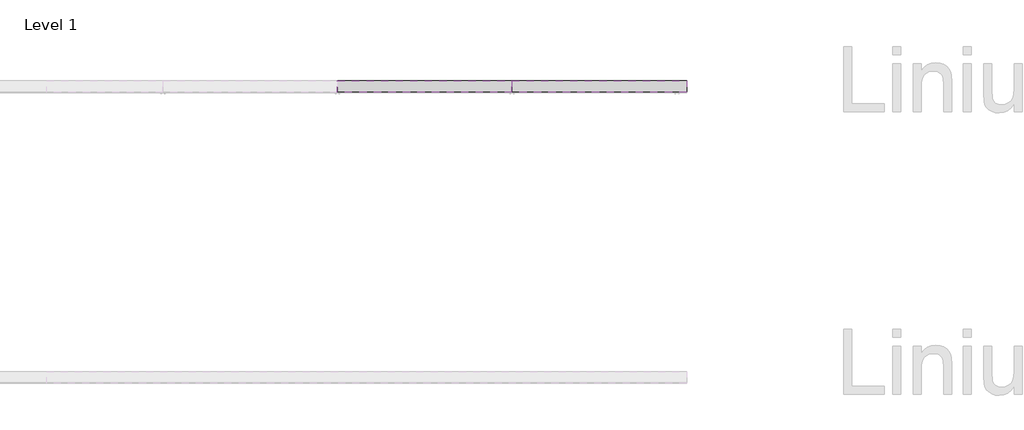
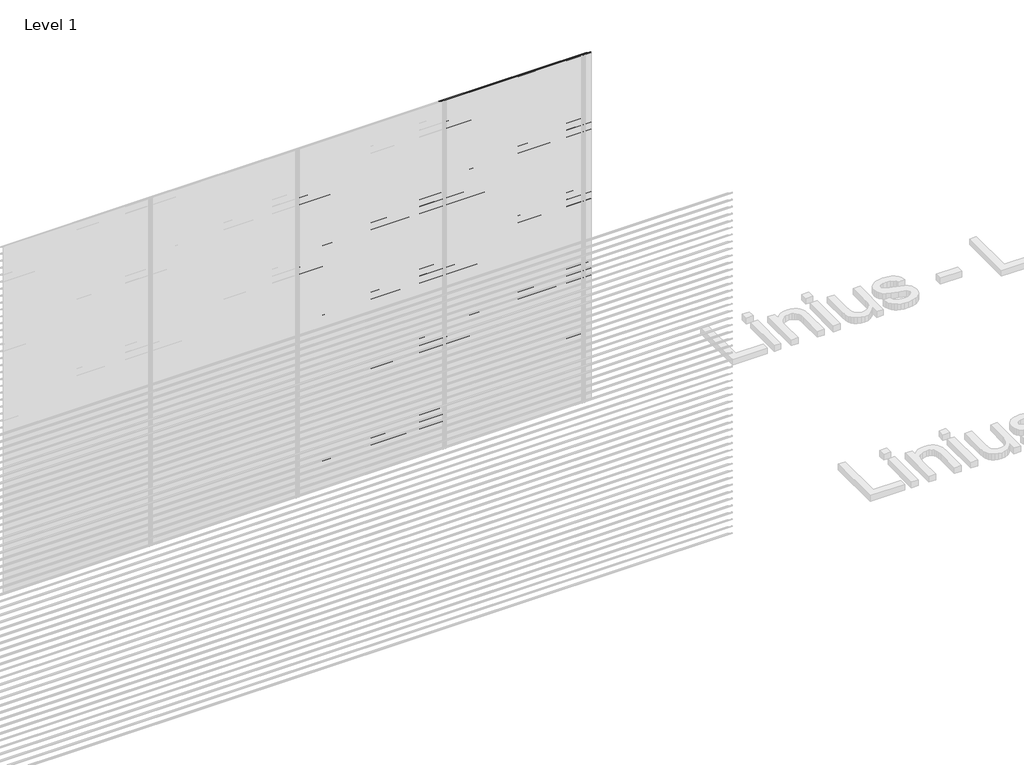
# One storey, part 134 of 153: 84 proxies.
"""IFC4 building model written with IfcOpenShell, lengths in millimetres."""

from ifc_helpers import new_model, si_unit, frame, origin, place, context, project, spatial, polyline, outline, extrude, element, save

model = new_model("IFC4")

# Units and contexts
model_context = context("Model", 3, world=origin())
ifc_project = project(units=[si_unit("LENGTHUNIT", "METRE", prefix="MILLI")], contexts=[model_context])

# Site, building, storey
site = spatial("IfcSite", under=ifc_project)
building = spatial("IfcBuilding", under=site)
storey = spatial("IfcBuildingStorey", under=building, Name="Level 1", Elevation=0.0)

# Proxies
placement = place(None, origin())
element("IfcBuildingElementProxy", 1, Name="Wall Sweeps", at=placement, inside=storey, context=model_context, shape_type="SweptSolid", body=[
    extrude(outline(polyline([(74061.0540136, 2526.0), (74061.0540136, 2520.0), (74059.8040136, 2520.7216933), (74059.8040136, 2525.2538091), (73983.0540136, 2573.9915103), (73983.0540136, 2580.0), (73984.3040136, 2580.0), (73984.3040136, 2574.7377012), (74061.0540136, 2526.0)])), frame((4066.6208096, 0.0, 0.0), z_axis=(1.0, 0.0, 0.0), x_axis=(0.0, 1.0, 0.0)), (0.0, 0.0, 1.0), 1199.9999999),
])
element("IfcBuildingElementProxy", 2, Name="Wall Sweeps", at=placement, inside=storey, context=model_context, shape_type="SweptSolid", body=[
    extrude(outline(polyline([(74061.0540136, 2466.0), (74061.0540136, 2460.0), (74059.8040136, 2460.7216933), (74059.8040136, 2465.2538091), (73983.0540136, 2513.9915103), (73983.0540136, 2520.0), (73984.3040136, 2520.0), (73984.3040136, 2514.7377012), (74061.0540136, 2466.0)])), frame((4066.6208096, 0.0, 0.0), z_axis=(1.0, 0.0, 0.0), x_axis=(0.0, 1.0, 0.0)), (0.0, 0.0, 1.0), 1199.9999999),
])
element("IfcBuildingElementProxy", 3, Name="Wall Sweeps", at=placement, inside=storey, context=model_context, shape_type="SweptSolid", body=[
    extrude(outline(polyline([(74061.0540136, 2406.0), (74061.0540136, 2400.0), (74059.8040136, 2400.7216933), (74059.8040136, 2405.2538091), (73983.0540136, 2453.9915103), (73983.0540136, 2460.0), (73984.3040136, 2460.0), (73984.3040136, 2454.7377012), (74061.0540136, 2406.0)])), frame((4066.6208096, 0.0, 0.0), z_axis=(1.0, 0.0, 0.0), x_axis=(0.0, 1.0, 0.0)), (0.0, 0.0, 1.0), 1199.9999999),
])
element("IfcBuildingElementProxy", 4, Name="Wall Sweeps", at=placement, inside=storey, context=model_context, shape_type="SweptSolid", body=[
    extrude(outline(polyline([(74061.0540136, 2346.0), (74061.0540136, 2340.0), (74059.8040136, 2340.7216933), (74059.8040136, 2345.2538091), (73983.0540136, 2393.9915103), (73983.0540136, 2400.0), (73984.3040136, 2400.0), (73984.3040136, 2394.7377012), (74061.0540136, 2346.0)])), frame((4066.6208096, 0.0, 0.0), z_axis=(1.0, 0.0, 0.0), x_axis=(0.0, 1.0, 0.0)), (0.0, 0.0, 1.0), 1199.9999999),
])
element("IfcBuildingElementProxy", 5, Name="Wall Sweeps", at=placement, inside=storey, context=model_context, shape_type="SweptSolid", body=[
    extrude(outline(polyline([(74061.0540136, 2286.0), (74061.0540136, 2280.0), (74059.8040136, 2280.7216933), (74059.8040136, 2285.2538091), (73983.0540136, 2333.9915103), (73983.0540136, 2340.0), (73984.3040136, 2340.0), (73984.3040136, 2334.7377012), (74061.0540136, 2286.0)])), frame((4066.6208096, 0.0, 0.0), z_axis=(1.0, 0.0, 0.0), x_axis=(0.0, 1.0, 0.0)), (0.0, 0.0, 1.0), 1199.9999999),
])
element("IfcBuildingElementProxy", 6, Name="Wall Sweeps", at=placement, inside=storey, context=model_context, shape_type="SweptSolid", body=[
    extrude(outline(polyline([(74061.0540136, 2226.0), (74061.0540136, 2220.0), (74059.8040136, 2220.7216933), (74059.8040136, 2225.2538091), (73983.0540136, 2273.9915103), (73983.0540136, 2280.0), (73984.3040136, 2280.0), (73984.3040136, 2274.7377012), (74061.0540136, 2226.0)])), frame((4066.6208096, 0.0, 0.0), z_axis=(1.0, 0.0, 0.0), x_axis=(0.0, 1.0, 0.0)), (0.0, 0.0, 1.0), 1199.9999999),
])
element("IfcBuildingElementProxy", 7, Name="Wall Sweeps", at=placement, inside=storey, context=model_context, shape_type="SweptSolid", body=[
    extrude(outline(polyline([(74061.0540136, 2166.0), (74061.0540136, 2160.0), (74059.8040136, 2160.7216933), (74059.8040136, 2165.2538091), (73983.0540136, 2213.9915103), (73983.0540136, 2220.0), (73984.3040136, 2220.0), (73984.3040136, 2214.7377012), (74061.0540136, 2166.0)])), frame((4066.6208096, 0.0, 0.0), z_axis=(1.0, 0.0, 0.0), x_axis=(0.0, 1.0, 0.0)), (0.0, 0.0, 1.0), 1199.9999999),
])
element("IfcBuildingElementProxy", 8, Name="Wall Sweeps", at=placement, inside=storey, context=model_context, shape_type="SweptSolid", body=[
    extrude(outline(polyline([(74061.0540136, 2106.0), (74061.0540136, 2100.0), (74059.8040136, 2100.7216933), (74059.8040136, 2105.2538091), (73983.0540136, 2153.9915103), (73983.0540136, 2160.0), (73984.3040136, 2160.0), (73984.3040136, 2154.7377012), (74061.0540136, 2106.0)])), frame((4066.6208096, 0.0, 0.0), z_axis=(1.0, 0.0, 0.0), x_axis=(0.0, 1.0, 0.0)), (0.0, 0.0, 1.0), 1199.9999999),
])
element("IfcBuildingElementProxy", 9, Name="Wall Sweeps", at=placement, inside=storey, context=model_context, shape_type="SweptSolid", body=[
    extrude(outline(polyline([(74061.0540136, 2046.0), (74061.0540136, 2040.0), (74059.8040136, 2040.7216933), (74059.8040136, 2045.2538091), (73983.0540136, 2093.9915103), (73983.0540136, 2100.0), (73984.3040136, 2100.0), (73984.3040136, 2094.7377012), (74061.0540136, 2046.0)])), frame((4066.6208096, 0.0, 0.0), z_axis=(1.0, 0.0, 0.0), x_axis=(0.0, 1.0, 0.0)), (0.0, 0.0, 1.0), 1199.9999999),
])
element("IfcBuildingElementProxy", 10, Name="Wall Sweeps", at=placement, inside=storey, context=model_context, shape_type="SweptSolid", body=[
    extrude(outline(polyline([(74061.0540136, 1986.0), (74061.0540136, 1980.0), (74059.8040136, 1980.7216933), (74059.8040136, 1985.2538091), (73983.0540136, 2033.9915103), (73983.0540136, 2040.0), (73984.3040136, 2040.0), (73984.3040136, 2034.7377012), (74061.0540136, 1986.0)])), frame((4066.6208096, 0.0, 0.0), z_axis=(1.0, 0.0, 0.0), x_axis=(0.0, 1.0, 0.0)), (0.0, 0.0, 1.0), 1199.9999999),
])
element("IfcBuildingElementProxy", 11, Name="Wall Sweeps", at=placement, inside=storey, context=model_context, shape_type="SweptSolid", body=[
    extrude(outline(polyline([(74061.0540136, 1926.0), (74061.0540136, 1920.0), (74059.8040136, 1920.7216933), (74059.8040136, 1925.2538091), (73983.0540136, 1973.9915103), (73983.0540136, 1980.0), (73984.3040136, 1980.0), (73984.3040136, 1974.7377012), (74061.0540136, 1926.0)])), frame((4066.6208096, 0.0, 0.0), z_axis=(1.0, 0.0, 0.0), x_axis=(0.0, 1.0, 0.0)), (0.0, 0.0, 1.0), 1199.9999999),
])
element("IfcBuildingElementProxy", 12, Name="Wall Sweeps", at=placement, inside=storey, context=model_context, shape_type="SweptSolid", body=[
    extrude(outline(polyline([(74061.0540136, 1866.0), (74061.0540136, 1860.0), (74059.8040136, 1860.7216933), (74059.8040136, 1865.2538091), (73983.0540136, 1913.9915103), (73983.0540136, 1920.0), (73984.3040136, 1920.0), (73984.3040136, 1914.7377012), (74061.0540136, 1866.0)])), frame((4066.6208096, 0.0, 0.0), z_axis=(1.0, 0.0, 0.0), x_axis=(0.0, 1.0, 0.0)), (0.0, 0.0, 1.0), 1199.9999999),
])
element("IfcBuildingElementProxy", 13, Name="Wall Sweeps", at=placement, inside=storey, context=model_context, shape_type="SweptSolid", body=[
    extrude(outline(polyline([(74061.0540136, 1806.0), (74061.0540136, 1800.0), (74059.8040136, 1800.7216933), (74059.8040136, 1805.2538091), (73983.0540136, 1853.9915103), (73983.0540136, 1860.0), (73984.3040136, 1860.0), (73984.3040136, 1854.7377012), (74061.0540136, 1806.0)])), frame((4066.6208096, 0.0, 0.0), z_axis=(1.0, 0.0, 0.0), x_axis=(0.0, 1.0, 0.0)), (0.0, 0.0, 1.0), 1199.9999999),
])
element("IfcBuildingElementProxy", 14, Name="Wall Sweeps", at=placement, inside=storey, context=model_context, shape_type="SweptSolid", body=[
    extrude(outline(polyline([(74061.0540136, 1746.0), (74061.0540136, 1740.0), (74059.8040136, 1740.7216933), (74059.8040136, 1745.2538091), (73983.0540136, 1793.9915103), (73983.0540136, 1800.0), (73984.3040136, 1800.0), (73984.3040136, 1794.7377012), (74061.0540136, 1746.0)])), frame((4066.6208096, 0.0, 0.0), z_axis=(1.0, 0.0, 0.0), x_axis=(0.0, 1.0, 0.0)), (0.0, 0.0, 1.0), 1199.9999999),
])
element("IfcBuildingElementProxy", 15, Name="Wall Sweeps", at=placement, inside=storey, context=model_context, shape_type="SweptSolid", body=[
    extrude(outline(polyline([(74061.0540136, 1686.0), (74061.0540136, 1680.0), (74059.8040136, 1680.7216933), (74059.8040136, 1685.2538091), (73983.0540136, 1733.9915103), (73983.0540136, 1740.0), (73984.3040136, 1740.0), (73984.3040136, 1734.7377012), (74061.0540136, 1686.0)])), frame((4066.6208096, 0.0, 0.0), z_axis=(1.0, 0.0, 0.0), x_axis=(0.0, 1.0, 0.0)), (0.0, 0.0, 1.0), 1199.9999999),
])
element("IfcBuildingElementProxy", 16, Name="Wall Sweeps", at=placement, inside=storey, context=model_context, shape_type="SweptSolid", body=[
    extrude(outline(polyline([(74061.0540136, 1626.0), (74061.0540136, 1620.0), (74059.8040136, 1620.7216933), (74059.8040136, 1625.2538091), (73983.0540136, 1673.9915103), (73983.0540136, 1680.0), (73984.3040136, 1680.0), (73984.3040136, 1674.7377012), (74061.0540136, 1626.0)])), frame((4066.6208096, 0.0, 0.0), z_axis=(1.0, 0.0, 0.0), x_axis=(0.0, 1.0, 0.0)), (0.0, 0.0, 1.0), 1199.9999999),
])
element("IfcBuildingElementProxy", 17, Name="Wall Sweeps", at=placement, inside=storey, context=model_context, shape_type="SweptSolid", body=[
    extrude(outline(polyline([(74061.0540136, 1566.0), (74061.0540136, 1560.0), (74059.8040136, 1560.7216933), (74059.8040136, 1565.2538091), (73983.0540136, 1613.9915103), (73983.0540136, 1620.0), (73984.3040136, 1620.0), (73984.3040136, 1614.7377012), (74061.0540136, 1566.0)])), frame((4066.6208096, 0.0, 0.0), z_axis=(1.0, 0.0, 0.0), x_axis=(0.0, 1.0, 0.0)), (0.0, 0.0, 1.0), 1199.9999999),
])
element("IfcBuildingElementProxy", 18, Name="Wall Sweeps", at=placement, inside=storey, context=model_context, shape_type="SweptSolid", body=[
    extrude(outline(polyline([(74061.0540136, 1506.0), (74061.0540136, 1500.0), (74059.8040136, 1500.7216933), (74059.8040136, 1505.2538091), (73983.0540136, 1553.9915103), (73983.0540136, 1560.0), (73984.3040136, 1560.0), (73984.3040136, 1554.7377012), (74061.0540136, 1506.0)])), frame((4066.6208096, 0.0, 0.0), z_axis=(1.0, 0.0, 0.0), x_axis=(0.0, 1.0, 0.0)), (0.0, 0.0, 1.0), 1199.9999999),
])
element("IfcBuildingElementProxy", 19, Name="Wall Sweeps", at=placement, inside=storey, context=model_context, shape_type="SweptSolid", body=[
    extrude(outline(polyline([(74061.0540136, 1446.0), (74061.0540136, 1440.0), (74059.8040136, 1440.7216933), (74059.8040136, 1445.2538091), (73983.0540136, 1493.9915103), (73983.0540136, 1500.0), (73984.3040136, 1500.0), (73984.3040136, 1494.7377012), (74061.0540136, 1446.0)])), frame((4066.6208096, 0.0, 0.0), z_axis=(1.0, 0.0, 0.0), x_axis=(0.0, 1.0, 0.0)), (0.0, 0.0, 1.0), 1199.9999999),
])
element("IfcBuildingElementProxy", 20, Name="Wall Sweeps", at=placement, inside=storey, context=model_context, shape_type="SweptSolid", body=[
    extrude(outline(polyline([(74061.0540136, 1386.0), (74061.0540136, 1380.0), (74059.8040136, 1380.7216933), (74059.8040136, 1385.2538091), (73983.0540136, 1433.9915103), (73983.0540136, 1440.0), (73984.3040136, 1440.0), (73984.3040136, 1434.7377012), (74061.0540136, 1386.0)])), frame((4066.6208096, 0.0, 0.0), z_axis=(1.0, 0.0, 0.0), x_axis=(0.0, 1.0, 0.0)), (0.0, 0.0, 1.0), 1199.9999999),
])
element("IfcBuildingElementProxy", 21, Name="Wall Sweeps", at=placement, inside=storey, context=model_context, shape_type="SweptSolid", body=[
    extrude(outline(polyline([(74061.0540136, 1326.0), (74061.0540136, 1320.0), (74059.8040136, 1320.7216933), (74059.8040136, 1325.2538091), (73983.0540136, 1373.9915103), (73983.0540136, 1380.0), (73984.3040136, 1380.0), (73984.3040136, 1374.7377012), (74061.0540136, 1326.0)])), frame((4066.6208096, 0.0, 0.0), z_axis=(1.0, 0.0, 0.0), x_axis=(0.0, 1.0, 0.0)), (0.0, 0.0, 1.0), 1199.9999999),
])
element("IfcBuildingElementProxy", 22, Name="Wall Sweeps", at=placement, inside=storey, context=model_context, shape_type="SweptSolid", body=[
    extrude(outline(polyline([(74061.0540136, 1266.0), (74061.0540136, 1260.0), (74059.8040136, 1260.7216933), (74059.8040136, 1265.2538091), (73983.0540136, 1313.9915103), (73983.0540136, 1320.0), (73984.3040136, 1320.0), (73984.3040136, 1314.7377012), (74061.0540136, 1266.0)])), frame((4066.6208096, 0.0, 0.0), z_axis=(1.0, 0.0, 0.0), x_axis=(0.0, 1.0, 0.0)), (0.0, 0.0, 1.0), 1199.9999999),
])
element("IfcBuildingElementProxy", 23, Name="Wall Sweeps", at=placement, inside=storey, context=model_context, shape_type="SweptSolid", body=[
    extrude(outline(polyline([(74061.0540136, 1206.0), (74061.0540136, 1200.0), (74059.8040136, 1200.7216933), (74059.8040136, 1205.2538091), (73983.0540136, 1253.9915103), (73983.0540136, 1260.0), (73984.3040136, 1260.0), (73984.3040136, 1254.7377012), (74061.0540136, 1206.0)])), frame((4066.6208096, 0.0, 0.0), z_axis=(1.0, 0.0, 0.0), x_axis=(0.0, 1.0, 0.0)), (0.0, 0.0, 1.0), 1199.9999999),
])
element("IfcBuildingElementProxy", 24, Name="Wall Sweeps", at=placement, inside=storey, context=model_context, shape_type="SweptSolid", body=[
    extrude(outline(polyline([(74061.0540136, 1146.0), (74061.0540136, 1140.0), (74059.8040136, 1140.7216933), (74059.8040136, 1145.2538091), (73983.0540136, 1193.9915103), (73983.0540136, 1200.0), (73984.3040136, 1200.0), (73984.3040136, 1194.7377012), (74061.0540136, 1146.0)])), frame((4066.6208096, 0.0, 0.0), z_axis=(1.0, 0.0, 0.0), x_axis=(0.0, 1.0, 0.0)), (0.0, 0.0, 1.0), 1199.9999999),
])
element("IfcBuildingElementProxy", 25, Name="Wall Sweeps", at=placement, inside=storey, context=model_context, shape_type="SweptSolid", body=[
    extrude(outline(polyline([(74061.0540136, 1086.0), (74061.0540136, 1080.0), (74059.8040136, 1080.7216933), (74059.8040136, 1085.2538091), (73983.0540136, 1133.9915103), (73983.0540136, 1140.0), (73984.3040136, 1140.0), (73984.3040136, 1134.7377012), (74061.0540136, 1086.0)])), frame((4066.6208096, 0.0, 0.0), z_axis=(1.0, 0.0, 0.0), x_axis=(0.0, 1.0, 0.0)), (0.0, 0.0, 1.0), 1199.9999999),
])
element("IfcBuildingElementProxy", 26, Name="Wall Sweeps", at=placement, inside=storey, context=model_context, shape_type="SweptSolid", body=[
    extrude(outline(polyline([(74061.0540136, 1026.0), (74061.0540136, 1020.0), (74059.8040136, 1020.7216933), (74059.8040136, 1025.2538091), (73983.0540136, 1073.9915103), (73983.0540136, 1080.0), (73984.3040136, 1080.0), (73984.3040136, 1074.7377012), (74061.0540136, 1026.0)])), frame((4066.6208096, 0.0, 0.0), z_axis=(1.0, 0.0, 0.0), x_axis=(0.0, 1.0, 0.0)), (0.0, 0.0, 1.0), 1199.9999999),
])
element("IfcBuildingElementProxy", 27, Name="Wall Sweeps", at=placement, inside=storey, context=model_context, shape_type="SweptSolid", body=[
    extrude(outline(polyline([(74061.0540136, 966.0), (74061.0540136, 960.0), (74059.8040136, 960.7216933), (74059.8040136, 965.2538091), (73983.0540136, 1013.9915103), (73983.0540136, 1020.0), (73984.3040136, 1020.0), (73984.3040136, 1014.7377012), (74061.0540136, 966.0)])), frame((4066.6208096, 0.0, 0.0), z_axis=(1.0, 0.0, 0.0), x_axis=(0.0, 1.0, 0.0)), (0.0, 0.0, 1.0), 1199.9999999),
])
element("IfcBuildingElementProxy", 28, Name="Wall Sweeps", at=placement, inside=storey, context=model_context, shape_type="SweptSolid", body=[
    extrude(outline(polyline([(74061.0540136, 906.0), (74061.0540136, 900.0), (74059.8040136, 900.7216933), (74059.8040136, 905.2538091), (73983.0540136, 953.9915103), (73983.0540136, 960.0), (73984.3040136, 960.0), (73984.3040136, 954.7377012), (74061.0540136, 906.0)])), frame((4066.6208096, 0.0, 0.0), z_axis=(1.0, 0.0, 0.0), x_axis=(0.0, 1.0, 0.0)), (0.0, 0.0, 1.0), 1199.9999999),
])
element("IfcBuildingElementProxy", 29, Name="Wall Sweeps", at=placement, inside=storey, context=model_context, shape_type="SweptSolid", body=[
    extrude(outline(polyline([(74061.0540136, 846.0), (74061.0540136, 840.0), (74059.8040136, 840.7216933), (74059.8040136, 845.2538091), (73983.0540136, 893.9915103), (73983.0540136, 900.0), (73984.3040136, 900.0), (73984.3040136, 894.7377012), (74061.0540136, 846.0)])), frame((4066.6208096, 0.0, 0.0), z_axis=(1.0, 0.0, 0.0), x_axis=(0.0, 1.0, 0.0)), (0.0, 0.0, 1.0), 1199.9999999),
])
element("IfcBuildingElementProxy", 30, Name="Wall Sweeps", at=placement, inside=storey, context=model_context, shape_type="SweptSolid", body=[
    extrude(outline(polyline([(74061.0540136, 786.0), (74061.0540136, 780.0), (74059.8040136, 780.7216933), (74059.8040136, 785.2538091), (73983.0540136, 833.9915103), (73983.0540136, 840.0), (73984.3040136, 840.0), (73984.3040136, 834.7377012), (74061.0540136, 786.0)])), frame((4066.6208096, 0.0, 0.0), z_axis=(1.0, 0.0, 0.0), x_axis=(0.0, 1.0, 0.0)), (0.0, 0.0, 1.0), 1199.9999999),
])
element("IfcBuildingElementProxy", 31, Name="Wall Sweeps", at=placement, inside=storey, context=model_context, shape_type="SweptSolid", body=[
    extrude(outline(polyline([(74061.0540136, 726.0), (74061.0540136, 720.0), (74059.8040136, 720.7216933), (74059.8040136, 725.2538091), (73983.0540136, 773.9915103), (73983.0540136, 780.0), (73984.3040136, 780.0), (73984.3040136, 774.7377012), (74061.0540136, 726.0)])), frame((4066.6208096, 0.0, 0.0), z_axis=(1.0, 0.0, 0.0), x_axis=(0.0, 1.0, 0.0)), (0.0, 0.0, 1.0), 1199.9999999),
])
element("IfcBuildingElementProxy", 32, Name="Wall Sweeps", at=placement, inside=storey, context=model_context, shape_type="SweptSolid", body=[
    extrude(outline(polyline([(74061.0540136, 666.0), (74061.0540136, 660.0), (74059.8040136, 660.7216933), (74059.8040136, 665.2538091), (73983.0540136, 713.9915103), (73983.0540136, 720.0), (73984.3040136, 720.0), (73984.3040136, 714.7377012), (74061.0540136, 666.0)])), frame((4066.6208096, 0.0, 0.0), z_axis=(1.0, 0.0, 0.0), x_axis=(0.0, 1.0, 0.0)), (0.0, 0.0, 1.0), 1199.9999999),
])
element("IfcBuildingElementProxy", 33, Name="Wall Sweeps", at=placement, inside=storey, context=model_context, shape_type="SweptSolid", body=[
    extrude(outline(polyline([(74061.0540136, 606.0), (74061.0540136, 600.0), (74059.8040136, 600.7216933), (74059.8040136, 605.2538091), (73983.0540136, 653.9915103), (73983.0540136, 660.0), (73984.3040136, 660.0), (73984.3040136, 654.7377012), (74061.0540136, 606.0)])), frame((4066.6208096, 0.0, 0.0), z_axis=(1.0, 0.0, 0.0), x_axis=(0.0, 1.0, 0.0)), (0.0, 0.0, 1.0), 1199.9999999),
])
element("IfcBuildingElementProxy", 34, Name="Wall Sweeps", at=placement, inside=storey, context=model_context, shape_type="SweptSolid", body=[
    extrude(outline(polyline([(74061.0540136, 546.0), (74061.0540136, 540.0), (74059.8040136, 540.7216933), (74059.8040136, 545.2538091), (73983.0540136, 593.9915103), (73983.0540136, 600.0), (73984.3040136, 600.0), (73984.3040136, 594.7377012), (74061.0540136, 546.0)])), frame((4066.6208096, 0.0, 0.0), z_axis=(1.0, 0.0, 0.0), x_axis=(0.0, 1.0, 0.0)), (0.0, 0.0, 1.0), 1199.9999999),
])
element("IfcBuildingElementProxy", 35, Name="Wall Sweeps", at=placement, inside=storey, context=model_context, shape_type="SweptSolid", body=[
    extrude(outline(polyline([(74061.0540136, 486.0), (74061.0540136, 480.0), (74059.8040136, 480.7216933), (74059.8040136, 485.2538091), (73983.0540136, 533.9915103), (73983.0540136, 540.0), (73984.3040136, 540.0), (73984.3040136, 534.7377012), (74061.0540136, 486.0)])), frame((4066.6208096, 0.0, 0.0), z_axis=(1.0, 0.0, 0.0), x_axis=(0.0, 1.0, 0.0)), (0.0, 0.0, 1.0), 1199.9999999),
])
element("IfcBuildingElementProxy", 36, Name="Wall Sweeps", at=placement, inside=storey, context=model_context, shape_type="SweptSolid", body=[
    extrude(outline(polyline([(74061.0540136, 426.0), (74061.0540136, 420.0), (74059.8040136, 420.7216933), (74059.8040136, 425.2538091), (73983.0540136, 473.9915103), (73983.0540136, 480.0), (73984.3040136, 480.0), (73984.3040136, 474.7377012), (74061.0540136, 426.0)])), frame((4066.6208096, 0.0, 0.0), z_axis=(1.0, 0.0, 0.0), x_axis=(0.0, 1.0, 0.0)), (0.0, 0.0, 1.0), 1199.9999999),
])
element("IfcBuildingElementProxy", 37, Name="Wall Sweeps", at=placement, inside=storey, context=model_context, shape_type="SweptSolid", body=[
    extrude(outline(polyline([(74061.0540136, 366.0), (74061.0540136, 360.0), (74059.8040136, 360.7216933), (74059.8040136, 365.2538091), (73983.0540136, 413.9915103), (73983.0540136, 420.0), (73984.3040136, 420.0), (73984.3040136, 414.7377012), (74061.0540136, 366.0)])), frame((4066.6208096, 0.0, 0.0), z_axis=(1.0, 0.0, 0.0), x_axis=(0.0, 1.0, 0.0)), (0.0, 0.0, 1.0), 1199.9999999),
])
element("IfcBuildingElementProxy", 38, Name="Wall Sweeps", at=placement, inside=storey, context=model_context, shape_type="SweptSolid", body=[
    extrude(outline(polyline([(74061.0540136, 306.0), (74061.0540136, 300.0), (74059.8040136, 300.7216933), (74059.8040136, 305.2538091), (73983.0540136, 353.9915103), (73983.0540136, 360.0), (73984.3040136, 360.0), (73984.3040136, 354.7377012), (74061.0540136, 306.0)])), frame((4066.6208096, 0.0, 0.0), z_axis=(1.0, 0.0, 0.0), x_axis=(0.0, 1.0, 0.0)), (0.0, 0.0, 1.0), 1199.9999999),
])
element("IfcBuildingElementProxy", 39, Name="Wall Sweeps", at=placement, inside=storey, context=model_context, shape_type="SweptSolid", body=[
    extrude(outline(polyline([(74061.0540136, 246.0), (74061.0540136, 240.0), (74059.8040136, 240.7216933), (74059.8040136, 245.2538091), (73983.0540136, 293.9915103), (73983.0540136, 300.0), (73984.3040136, 300.0), (73984.3040136, 294.7377012), (74061.0540136, 246.0)])), frame((4066.6208096, 0.0, 0.0), z_axis=(1.0, 0.0, 0.0), x_axis=(0.0, 1.0, 0.0)), (0.0, 0.0, 1.0), 1199.9999999),
])
element("IfcBuildingElementProxy", 40, Name="Wall Sweeps", at=placement, inside=storey, context=model_context, shape_type="SweptSolid", body=[
    extrude(outline(polyline([(74061.0540136, 186.0), (74061.0540136, 180.0), (74059.8040136, 180.7216933), (74059.8040136, 185.2538091), (73983.0540136, 233.9915103), (73983.0540136, 240.0), (73984.3040136, 240.0), (73984.3040136, 234.7377012), (74061.0540136, 186.0)])), frame((4066.6208096, 0.0, 0.0), z_axis=(1.0, 0.0, 0.0), x_axis=(0.0, 1.0, 0.0)), (0.0, 0.0, 1.0), 1199.9999999),
])
element("IfcBuildingElementProxy", 41, Name="Wall Sweeps", at=placement, inside=storey, context=model_context, shape_type="SweptSolid", body=[
    extrude(outline(polyline([(74061.0540136, 126.0), (74061.0540136, 120.0), (74059.8040136, 120.7216933), (74059.8040136, 125.2538091), (73983.0540136, 173.9915103), (73983.0540136, 180.0), (73984.3040136, 180.0), (73984.3040136, 174.7377012), (74061.0540136, 126.0)])), frame((4066.6208096, 0.0, 0.0), z_axis=(1.0, 0.0, 0.0), x_axis=(0.0, 1.0, 0.0)), (0.0, 0.0, 1.0), 1199.9999999),
])
element("IfcBuildingElementProxy", 42, Name="Wall Sweeps", at=placement, inside=storey, context=model_context, shape_type="SweptSolid", body=[
    extrude(outline(polyline([(74061.0540136, 66.0), (74061.0540136, 60.0), (74059.8040136, 60.7216933), (74059.8040136, 65.2538091), (73983.0540136, 113.9915103), (73983.0540136, 120.0), (73984.3040136, 120.0), (73984.3040136, 114.7377012), (74061.0540136, 66.0)])), frame((4066.6208096, 0.0, 0.0), z_axis=(1.0, 0.0, 0.0), x_axis=(0.0, 1.0, 0.0)), (0.0, 0.0, 1.0), 1199.9999999),
])
element("IfcBuildingElementProxy", 43, Name="Wall Sweeps", at=placement, inside=storey, context=model_context, shape_type="SweptSolid", body=[
    extrude(outline(polyline([(74061.0540136, 6.0), (74061.0540136, 0.0), (74059.8040136, 0.7216933), (74059.8040136, 5.2538091), (73983.0540136, 53.9915103), (73983.0540136, 60.0), (73984.3040136, 60.0), (73984.3040136, 54.7377012), (74061.0540136, 6.0)])), frame((4066.6208096, 0.0, 0.0), z_axis=(1.0, 0.0, 0.0), x_axis=(0.0, 1.0, 0.0)), (0.0, 0.0, 1.0), 1199.9999999),
])
element("IfcBuildingElementProxy", 44, Name="Wall Sweeps", at=placement, inside=storey, context=model_context, shape_type="SweptSolid", body=[
    extrude(outline(polyline([(74061.0540136, 2946.0), (74061.0540136, 2940.0), (74059.8040136, 2940.7216933), (74059.8040136, 2945.2538091), (73983.0540136, 2993.9915103), (73983.0540136, 3000.0), (73984.3040136, 3000.0), (73984.3040136, 2994.7377012), (74061.0540136, 2946.0)])), frame((5266.6208095, 0.0, 0.0), z_axis=(1.0, 0.0, 0.0), x_axis=(0.0, 1.0, 0.0)), (0.0, 0.0, 1.0), 1200.0000002),
])
element("IfcBuildingElementProxy", 45, Name="Wall Sweeps", at=placement, inside=storey, context=model_context, shape_type="SweptSolid", body=[
    extrude(outline(polyline([(74061.0540136, 2886.0), (74061.0540136, 2880.0), (74059.8040136, 2880.7216933), (74059.8040136, 2885.2538091), (73983.0540136, 2933.9915103), (73983.0540136, 2940.0), (73984.3040136, 2940.0), (73984.3040136, 2934.7377012), (74061.0540136, 2886.0)])), frame((5266.6208095, 0.0, 0.0), z_axis=(1.0, 0.0, 0.0), x_axis=(0.0, 1.0, 0.0)), (0.0, 0.0, 1.0), 1200.0000002),
])
element("IfcBuildingElementProxy", 46, Name="Wall Sweeps", at=placement, inside=storey, context=model_context, shape_type="SweptSolid", body=[
    extrude(outline(polyline([(74061.0540136, 2826.0), (74061.0540136, 2820.0), (74059.8040136, 2820.7216933), (74059.8040136, 2825.2538091), (73983.0540136, 2873.9915103), (73983.0540136, 2880.0), (73984.3040136, 2880.0), (73984.3040136, 2874.7377012), (74061.0540136, 2826.0)])), frame((5266.6208095, 0.0, 0.0), z_axis=(1.0, 0.0, 0.0), x_axis=(0.0, 1.0, 0.0)), (0.0, 0.0, 1.0), 1200.0000002),
])
element("IfcBuildingElementProxy", 47, Name="Wall Sweeps", at=placement, inside=storey, context=model_context, shape_type="SweptSolid", body=[
    extrude(outline(polyline([(74061.0540136, 2766.0), (74061.0540136, 2760.0), (74059.8040136, 2760.7216933), (74059.8040136, 2765.2538091), (73983.0540136, 2813.9915103), (73983.0540136, 2820.0), (73984.3040136, 2820.0), (73984.3040136, 2814.7377012), (74061.0540136, 2766.0)])), frame((5266.6208095, 0.0, 0.0), z_axis=(1.0, 0.0, 0.0), x_axis=(0.0, 1.0, 0.0)), (0.0, 0.0, 1.0), 1200.0000002),
])
element("IfcBuildingElementProxy", 48, Name="Wall Sweeps", at=placement, inside=storey, context=model_context, shape_type="SweptSolid", body=[
    extrude(outline(polyline([(74061.0540136, 2706.0), (74061.0540136, 2700.0), (74059.8040136, 2700.7216933), (74059.8040136, 2705.2538091), (73983.0540136, 2753.9915103), (73983.0540136, 2760.0), (73984.3040136, 2760.0), (73984.3040136, 2754.7377012), (74061.0540136, 2706.0)])), frame((5266.6208095, 0.0, 0.0), z_axis=(1.0, 0.0, 0.0), x_axis=(0.0, 1.0, 0.0)), (0.0, 0.0, 1.0), 1200.0000002),
])
element("IfcBuildingElementProxy", 49, Name="Wall Sweeps", at=placement, inside=storey, context=model_context, shape_type="SweptSolid", body=[
    extrude(outline(polyline([(74061.0540136, 2646.0), (74061.0540136, 2640.0), (74059.8040136, 2640.7216933), (74059.8040136, 2645.2538091), (73983.0540136, 2693.9915103), (73983.0540136, 2700.0), (73984.3040136, 2700.0), (73984.3040136, 2694.7377012), (74061.0540136, 2646.0)])), frame((5266.6208095, 0.0, 0.0), z_axis=(1.0, 0.0, 0.0), x_axis=(0.0, 1.0, 0.0)), (0.0, 0.0, 1.0), 1200.0000002),
])
element("IfcBuildingElementProxy", 50, Name="Wall Sweeps", at=placement, inside=storey, context=model_context, shape_type="SweptSolid", body=[
    extrude(outline(polyline([(74061.0540136, 2586.0), (74061.0540136, 2580.0), (74059.8040136, 2580.7216933), (74059.8040136, 2585.2538091), (73983.0540136, 2633.9915103), (73983.0540136, 2640.0), (73984.3040136, 2640.0), (73984.3040136, 2634.7377012), (74061.0540136, 2586.0)])), frame((5266.6208095, 0.0, 0.0), z_axis=(1.0, 0.0, 0.0), x_axis=(0.0, 1.0, 0.0)), (0.0, 0.0, 1.0), 1200.0000002),
])
element("IfcBuildingElementProxy", 51, Name="Wall Sweeps", at=placement, inside=storey, context=model_context, shape_type="SweptSolid", body=[
    extrude(outline(polyline([(74061.0540136, 2526.0), (74061.0540136, 2520.0), (74059.8040136, 2520.7216933), (74059.8040136, 2525.2538091), (73983.0540136, 2573.9915103), (73983.0540136, 2580.0), (73984.3040136, 2580.0), (73984.3040136, 2574.7377012), (74061.0540136, 2526.0)])), frame((5266.6208095, 0.0, 0.0), z_axis=(1.0, 0.0, 0.0), x_axis=(0.0, 1.0, 0.0)), (0.0, 0.0, 1.0), 1200.0000002),
])
element("IfcBuildingElementProxy", 52, Name="Wall Sweeps", at=placement, inside=storey, context=model_context, shape_type="SweptSolid", body=[
    extrude(outline(polyline([(74061.0540136, 2466.0), (74061.0540136, 2460.0), (74059.8040136, 2460.7216933), (74059.8040136, 2465.2538091), (73983.0540136, 2513.9915103), (73983.0540136, 2520.0), (73984.3040136, 2520.0), (73984.3040136, 2514.7377012), (74061.0540136, 2466.0)])), frame((5266.6208095, 0.0, 0.0), z_axis=(1.0, 0.0, 0.0), x_axis=(0.0, 1.0, 0.0)), (0.0, 0.0, 1.0), 1200.0000002),
])
element("IfcBuildingElementProxy", 53, Name="Wall Sweeps", at=placement, inside=storey, context=model_context, shape_type="SweptSolid", body=[
    extrude(outline(polyline([(74061.0540136, 2406.0), (74061.0540136, 2400.0), (74059.8040136, 2400.7216933), (74059.8040136, 2405.2538091), (73983.0540136, 2453.9915103), (73983.0540136, 2460.0), (73984.3040136, 2460.0), (73984.3040136, 2454.7377012), (74061.0540136, 2406.0)])), frame((5266.6208095, 0.0, 0.0), z_axis=(1.0, 0.0, 0.0), x_axis=(0.0, 1.0, 0.0)), (0.0, 0.0, 1.0), 1200.0000002),
])
element("IfcBuildingElementProxy", 54, Name="Wall Sweeps", at=placement, inside=storey, context=model_context, shape_type="SweptSolid", body=[
    extrude(outline(polyline([(74061.0540136, 2346.0), (74061.0540136, 2340.0), (74059.8040136, 2340.7216933), (74059.8040136, 2345.2538091), (73983.0540136, 2393.9915103), (73983.0540136, 2400.0), (73984.3040136, 2400.0), (73984.3040136, 2394.7377012), (74061.0540136, 2346.0)])), frame((5266.6208095, 0.0, 0.0), z_axis=(1.0, 0.0, 0.0), x_axis=(0.0, 1.0, 0.0)), (0.0, 0.0, 1.0), 1200.0000002),
])
element("IfcBuildingElementProxy", 55, Name="Wall Sweeps", at=placement, inside=storey, context=model_context, shape_type="SweptSolid", body=[
    extrude(outline(polyline([(74061.0540136, 2286.0), (74061.0540136, 2280.0), (74059.8040136, 2280.7216933), (74059.8040136, 2285.2538091), (73983.0540136, 2333.9915103), (73983.0540136, 2340.0), (73984.3040136, 2340.0), (73984.3040136, 2334.7377012), (74061.0540136, 2286.0)])), frame((5266.6208095, 0.0, 0.0), z_axis=(1.0, 0.0, 0.0), x_axis=(0.0, 1.0, 0.0)), (0.0, 0.0, 1.0), 1200.0000002),
])
element("IfcBuildingElementProxy", 56, Name="Wall Sweeps", at=placement, inside=storey, context=model_context, shape_type="SweptSolid", body=[
    extrude(outline(polyline([(74061.0540136, 2226.0), (74061.0540136, 2220.0), (74059.8040136, 2220.7216933), (74059.8040136, 2225.2538091), (73983.0540136, 2273.9915103), (73983.0540136, 2280.0), (73984.3040136, 2280.0), (73984.3040136, 2274.7377012), (74061.0540136, 2226.0)])), frame((5266.6208095, 0.0, 0.0), z_axis=(1.0, 0.0, 0.0), x_axis=(0.0, 1.0, 0.0)), (0.0, 0.0, 1.0), 1200.0000002),
])
element("IfcBuildingElementProxy", 57, Name="Wall Sweeps", at=placement, inside=storey, context=model_context, shape_type="SweptSolid", body=[
    extrude(outline(polyline([(74061.0540136, 2166.0), (74061.0540136, 2160.0), (74059.8040136, 2160.7216933), (74059.8040136, 2165.2538091), (73983.0540136, 2213.9915103), (73983.0540136, 2220.0), (73984.3040136, 2220.0), (73984.3040136, 2214.7377012), (74061.0540136, 2166.0)])), frame((5266.6208095, 0.0, 0.0), z_axis=(1.0, 0.0, 0.0), x_axis=(0.0, 1.0, 0.0)), (0.0, 0.0, 1.0), 1200.0000002),
])
element("IfcBuildingElementProxy", 58, Name="Wall Sweeps", at=placement, inside=storey, context=model_context, shape_type="SweptSolid", body=[
    extrude(outline(polyline([(74061.0540136, 2106.0), (74061.0540136, 2100.0), (74059.8040136, 2100.7216933), (74059.8040136, 2105.2538091), (73983.0540136, 2153.9915103), (73983.0540136, 2160.0), (73984.3040136, 2160.0), (73984.3040136, 2154.7377012), (74061.0540136, 2106.0)])), frame((5266.6208095, 0.0, 0.0), z_axis=(1.0, 0.0, 0.0), x_axis=(0.0, 1.0, 0.0)), (0.0, 0.0, 1.0), 1200.0000002),
])
element("IfcBuildingElementProxy", 59, Name="Wall Sweeps", at=placement, inside=storey, context=model_context, shape_type="SweptSolid", body=[
    extrude(outline(polyline([(74061.0540136, 2046.0), (74061.0540136, 2040.0), (74059.8040136, 2040.7216933), (74059.8040136, 2045.2538091), (73983.0540136, 2093.9915103), (73983.0540136, 2100.0), (73984.3040136, 2100.0), (73984.3040136, 2094.7377012), (74061.0540136, 2046.0)])), frame((5266.6208095, 0.0, 0.0), z_axis=(1.0, 0.0, 0.0), x_axis=(0.0, 1.0, 0.0)), (0.0, 0.0, 1.0), 1200.0000002),
])
element("IfcBuildingElementProxy", 60, Name="Wall Sweeps", at=placement, inside=storey, context=model_context, shape_type="SweptSolid", body=[
    extrude(outline(polyline([(74061.0540136, 1986.0), (74061.0540136, 1980.0), (74059.8040136, 1980.7216933), (74059.8040136, 1985.2538091), (73983.0540136, 2033.9915103), (73983.0540136, 2040.0), (73984.3040136, 2040.0), (73984.3040136, 2034.7377012), (74061.0540136, 1986.0)])), frame((5266.6208095, 0.0, 0.0), z_axis=(1.0, 0.0, 0.0), x_axis=(0.0, 1.0, 0.0)), (0.0, 0.0, 1.0), 1200.0000002),
])
element("IfcBuildingElementProxy", 61, Name="Wall Sweeps", at=placement, inside=storey, context=model_context, shape_type="SweptSolid", body=[
    extrude(outline(polyline([(74061.0540136, 1926.0), (74061.0540136, 1920.0), (74059.8040136, 1920.7216933), (74059.8040136, 1925.2538091), (73983.0540136, 1973.9915103), (73983.0540136, 1980.0), (73984.3040136, 1980.0), (73984.3040136, 1974.7377012), (74061.0540136, 1926.0)])), frame((5266.6208095, 0.0, 0.0), z_axis=(1.0, 0.0, 0.0), x_axis=(0.0, 1.0, 0.0)), (0.0, 0.0, 1.0), 1200.0000002),
])
element("IfcBuildingElementProxy", 62, Name="Wall Sweeps", at=placement, inside=storey, context=model_context, shape_type="SweptSolid", body=[
    extrude(outline(polyline([(74061.0540136, 1866.0), (74061.0540136, 1860.0), (74059.8040136, 1860.7216933), (74059.8040136, 1865.2538091), (73983.0540136, 1913.9915103), (73983.0540136, 1920.0), (73984.3040136, 1920.0), (73984.3040136, 1914.7377012), (74061.0540136, 1866.0)])), frame((5266.6208095, 0.0, 0.0), z_axis=(1.0, 0.0, 0.0), x_axis=(0.0, 1.0, 0.0)), (0.0, 0.0, 1.0), 1200.0000002),
])
element("IfcBuildingElementProxy", 63, Name="Wall Sweeps", at=placement, inside=storey, context=model_context, shape_type="SweptSolid", body=[
    extrude(outline(polyline([(74061.0540136, 1806.0), (74061.0540136, 1800.0), (74059.8040136, 1800.7216933), (74059.8040136, 1805.2538091), (73983.0540136, 1853.9915103), (73983.0540136, 1860.0), (73984.3040136, 1860.0), (73984.3040136, 1854.7377012), (74061.0540136, 1806.0)])), frame((5266.6208095, 0.0, 0.0), z_axis=(1.0, 0.0, 0.0), x_axis=(0.0, 1.0, 0.0)), (0.0, 0.0, 1.0), 1200.0000002),
])
element("IfcBuildingElementProxy", 64, Name="Wall Sweeps", at=placement, inside=storey, context=model_context, shape_type="SweptSolid", body=[
    extrude(outline(polyline([(74061.0540136, 1746.0), (74061.0540136, 1740.0), (74059.8040136, 1740.7216933), (74059.8040136, 1745.2538091), (73983.0540136, 1793.9915103), (73983.0540136, 1800.0), (73984.3040136, 1800.0), (73984.3040136, 1794.7377012), (74061.0540136, 1746.0)])), frame((5266.6208095, 0.0, 0.0), z_axis=(1.0, 0.0, 0.0), x_axis=(0.0, 1.0, 0.0)), (0.0, 0.0, 1.0), 1200.0000002),
])
element("IfcBuildingElementProxy", 65, Name="Wall Sweeps", at=placement, inside=storey, context=model_context, shape_type="SweptSolid", body=[
    extrude(outline(polyline([(74061.0540136, 1686.0), (74061.0540136, 1680.0), (74059.8040136, 1680.7216933), (74059.8040136, 1685.2538091), (73983.0540136, 1733.9915103), (73983.0540136, 1740.0), (73984.3040136, 1740.0), (73984.3040136, 1734.7377012), (74061.0540136, 1686.0)])), frame((5266.6208095, 0.0, 0.0), z_axis=(1.0, 0.0, 0.0), x_axis=(0.0, 1.0, 0.0)), (0.0, 0.0, 1.0), 1200.0000002),
])
element("IfcBuildingElementProxy", 66, Name="Wall Sweeps", at=placement, inside=storey, context=model_context, shape_type="SweptSolid", body=[
    extrude(outline(polyline([(74061.0540136, 1626.0), (74061.0540136, 1620.0), (74059.8040136, 1620.7216933), (74059.8040136, 1625.2538091), (73983.0540136, 1673.9915103), (73983.0540136, 1680.0), (73984.3040136, 1680.0), (73984.3040136, 1674.7377012), (74061.0540136, 1626.0)])), frame((5266.6208095, 0.0, 0.0), z_axis=(1.0, 0.0, 0.0), x_axis=(0.0, 1.0, 0.0)), (0.0, 0.0, 1.0), 1200.0000002),
])
element("IfcBuildingElementProxy", 67, Name="Wall Sweeps", at=placement, inside=storey, context=model_context, shape_type="SweptSolid", body=[
    extrude(outline(polyline([(74061.0540136, 1566.0), (74061.0540136, 1560.0), (74059.8040136, 1560.7216933), (74059.8040136, 1565.2538091), (73983.0540136, 1613.9915103), (73983.0540136, 1620.0), (73984.3040136, 1620.0), (73984.3040136, 1614.7377012), (74061.0540136, 1566.0)])), frame((5266.6208095, 0.0, 0.0), z_axis=(1.0, 0.0, 0.0), x_axis=(0.0, 1.0, 0.0)), (0.0, 0.0, 1.0), 1200.0000002),
])
element("IfcBuildingElementProxy", 68, Name="Wall Sweeps", at=placement, inside=storey, context=model_context, shape_type="SweptSolid", body=[
    extrude(outline(polyline([(74061.0540136, 1506.0), (74061.0540136, 1500.0), (74059.8040136, 1500.7216933), (74059.8040136, 1505.2538091), (73983.0540136, 1553.9915103), (73983.0540136, 1560.0), (73984.3040136, 1560.0), (73984.3040136, 1554.7377012), (74061.0540136, 1506.0)])), frame((5266.6208095, 0.0, 0.0), z_axis=(1.0, 0.0, 0.0), x_axis=(0.0, 1.0, 0.0)), (0.0, 0.0, 1.0), 1200.0000002),
])
element("IfcBuildingElementProxy", 69, Name="Wall Sweeps", at=placement, inside=storey, context=model_context, shape_type="SweptSolid", body=[
    extrude(outline(polyline([(74061.0540136, 1446.0), (74061.0540136, 1440.0), (74059.8040136, 1440.7216933), (74059.8040136, 1445.2538091), (73983.0540136, 1493.9915103), (73983.0540136, 1500.0), (73984.3040136, 1500.0), (73984.3040136, 1494.7377012), (74061.0540136, 1446.0)])), frame((5266.6208095, 0.0, 0.0), z_axis=(1.0, 0.0, 0.0), x_axis=(0.0, 1.0, 0.0)), (0.0, 0.0, 1.0), 1200.0000002),
])
element("IfcBuildingElementProxy", 70, Name="Wall Sweeps", at=placement, inside=storey, context=model_context, shape_type="SweptSolid", body=[
    extrude(outline(polyline([(74061.0540136, 1386.0), (74061.0540136, 1380.0), (74059.8040136, 1380.7216933), (74059.8040136, 1385.2538091), (73983.0540136, 1433.9915103), (73983.0540136, 1440.0), (73984.3040136, 1440.0), (73984.3040136, 1434.7377012), (74061.0540136, 1386.0)])), frame((5266.6208095, 0.0, 0.0), z_axis=(1.0, 0.0, 0.0), x_axis=(0.0, 1.0, 0.0)), (0.0, 0.0, 1.0), 1200.0000002),
])
element("IfcBuildingElementProxy", 71, Name="Wall Sweeps", at=placement, inside=storey, context=model_context, shape_type="SweptSolid", body=[
    extrude(outline(polyline([(74061.0540136, 1326.0), (74061.0540136, 1320.0), (74059.8040136, 1320.7216933), (74059.8040136, 1325.2538091), (73983.0540136, 1373.9915103), (73983.0540136, 1380.0), (73984.3040136, 1380.0), (73984.3040136, 1374.7377012), (74061.0540136, 1326.0)])), frame((5266.6208095, 0.0, 0.0), z_axis=(1.0, 0.0, 0.0), x_axis=(0.0, 1.0, 0.0)), (0.0, 0.0, 1.0), 1200.0000002),
])
element("IfcBuildingElementProxy", 72, Name="Wall Sweeps", at=placement, inside=storey, context=model_context, shape_type="SweptSolid", body=[
    extrude(outline(polyline([(74061.0540136, 1266.0), (74061.0540136, 1260.0), (74059.8040136, 1260.7216933), (74059.8040136, 1265.2538091), (73983.0540136, 1313.9915103), (73983.0540136, 1320.0), (73984.3040136, 1320.0), (73984.3040136, 1314.7377012), (74061.0540136, 1266.0)])), frame((5266.6208095, 0.0, 0.0), z_axis=(1.0, 0.0, 0.0), x_axis=(0.0, 1.0, 0.0)), (0.0, 0.0, 1.0), 1200.0000002),
])
element("IfcBuildingElementProxy", 73, Name="Wall Sweeps", at=placement, inside=storey, context=model_context, shape_type="SweptSolid", body=[
    extrude(outline(polyline([(74061.0540136, 1206.0), (74061.0540136, 1200.0), (74059.8040136, 1200.7216933), (74059.8040136, 1205.2538091), (73983.0540136, 1253.9915103), (73983.0540136, 1260.0), (73984.3040136, 1260.0), (73984.3040136, 1254.7377012), (74061.0540136, 1206.0)])), frame((5266.6208095, 0.0, 0.0), z_axis=(1.0, 0.0, 0.0), x_axis=(0.0, 1.0, 0.0)), (0.0, 0.0, 1.0), 1200.0000002),
])
element("IfcBuildingElementProxy", 74, Name="Wall Sweeps", at=placement, inside=storey, context=model_context, shape_type="SweptSolid", body=[
    extrude(outline(polyline([(74061.0540136, 1146.0), (74061.0540136, 1140.0), (74059.8040136, 1140.7216933), (74059.8040136, 1145.2538091), (73983.0540136, 1193.9915103), (73983.0540136, 1200.0), (73984.3040136, 1200.0), (73984.3040136, 1194.7377012), (74061.0540136, 1146.0)])), frame((5266.6208095, 0.0, 0.0), z_axis=(1.0, 0.0, 0.0), x_axis=(0.0, 1.0, 0.0)), (0.0, 0.0, 1.0), 1200.0000002),
])
element("IfcBuildingElementProxy", 75, Name="Wall Sweeps", at=placement, inside=storey, context=model_context, shape_type="SweptSolid", body=[
    extrude(outline(polyline([(74061.0540136, 1086.0), (74061.0540136, 1080.0), (74059.8040136, 1080.7216933), (74059.8040136, 1085.2538091), (73983.0540136, 1133.9915103), (73983.0540136, 1140.0), (73984.3040136, 1140.0), (73984.3040136, 1134.7377012), (74061.0540136, 1086.0)])), frame((5266.6208095, 0.0, 0.0), z_axis=(1.0, 0.0, 0.0), x_axis=(0.0, 1.0, 0.0)), (0.0, 0.0, 1.0), 1200.0000002),
])
element("IfcBuildingElementProxy", 76, Name="Wall Sweeps", at=placement, inside=storey, context=model_context, shape_type="SweptSolid", body=[
    extrude(outline(polyline([(74061.0540136, 1026.0), (74061.0540136, 1020.0), (74059.8040136, 1020.7216933), (74059.8040136, 1025.2538091), (73983.0540136, 1073.9915103), (73983.0540136, 1080.0), (73984.3040136, 1080.0), (73984.3040136, 1074.7377012), (74061.0540136, 1026.0)])), frame((5266.6208095, 0.0, 0.0), z_axis=(1.0, 0.0, 0.0), x_axis=(0.0, 1.0, 0.0)), (0.0, 0.0, 1.0), 1200.0000002),
])
element("IfcBuildingElementProxy", 77, Name="Wall Sweeps", at=placement, inside=storey, context=model_context, shape_type="SweptSolid", body=[
    extrude(outline(polyline([(74061.0540136, 966.0), (74061.0540136, 960.0), (74059.8040136, 960.7216933), (74059.8040136, 965.2538091), (73983.0540136, 1013.9915103), (73983.0540136, 1020.0), (73984.3040136, 1020.0), (73984.3040136, 1014.7377012), (74061.0540136, 966.0)])), frame((5266.6208095, 0.0, 0.0), z_axis=(1.0, 0.0, 0.0), x_axis=(0.0, 1.0, 0.0)), (0.0, 0.0, 1.0), 1200.0000002),
])
element("IfcBuildingElementProxy", 78, Name="Wall Sweeps", at=placement, inside=storey, context=model_context, shape_type="SweptSolid", body=[
    extrude(outline(polyline([(74061.0540136, 906.0), (74061.0540136, 900.0), (74059.8040136, 900.7216933), (74059.8040136, 905.2538091), (73983.0540136, 953.9915103), (73983.0540136, 960.0), (73984.3040136, 960.0), (73984.3040136, 954.7377012), (74061.0540136, 906.0)])), frame((5266.6208095, 0.0, 0.0), z_axis=(1.0, 0.0, 0.0), x_axis=(0.0, 1.0, 0.0)), (0.0, 0.0, 1.0), 1200.0000002),
])
element("IfcBuildingElementProxy", 79, Name="Wall Sweeps", at=placement, inside=storey, context=model_context, shape_type="SweptSolid", body=[
    extrude(outline(polyline([(74061.0540136, 846.0), (74061.0540136, 840.0), (74059.8040136, 840.7216933), (74059.8040136, 845.2538091), (73983.0540136, 893.9915103), (73983.0540136, 900.0), (73984.3040136, 900.0), (73984.3040136, 894.7377012), (74061.0540136, 846.0)])), frame((5266.6208095, 0.0, 0.0), z_axis=(1.0, 0.0, 0.0), x_axis=(0.0, 1.0, 0.0)), (0.0, 0.0, 1.0), 1200.0000002),
])
element("IfcBuildingElementProxy", 80, Name="Wall Sweeps", at=placement, inside=storey, context=model_context, shape_type="SweptSolid", body=[
    extrude(outline(polyline([(74061.0540136, 786.0), (74061.0540136, 780.0), (74059.8040136, 780.7216933), (74059.8040136, 785.2538091), (73983.0540136, 833.9915103), (73983.0540136, 840.0), (73984.3040136, 840.0), (73984.3040136, 834.7377012), (74061.0540136, 786.0)])), frame((5266.6208095, 0.0, 0.0), z_axis=(1.0, 0.0, 0.0), x_axis=(0.0, 1.0, 0.0)), (0.0, 0.0, 1.0), 1200.0000002),
])
element("IfcBuildingElementProxy", 81, Name="Wall Sweeps", at=placement, inside=storey, context=model_context, shape_type="SweptSolid", body=[
    extrude(outline(polyline([(74061.0540136, 726.0), (74061.0540136, 720.0), (74059.8040136, 720.7216933), (74059.8040136, 725.2538091), (73983.0540136, 773.9915103), (73983.0540136, 780.0), (73984.3040136, 780.0), (73984.3040136, 774.7377012), (74061.0540136, 726.0)])), frame((5266.6208095, 0.0, 0.0), z_axis=(1.0, 0.0, 0.0), x_axis=(0.0, 1.0, 0.0)), (0.0, 0.0, 1.0), 1200.0000002),
])
element("IfcBuildingElementProxy", 82, Name="Wall Sweeps", at=placement, inside=storey, context=model_context, shape_type="SweptSolid", body=[
    extrude(outline(polyline([(74061.0540136, 666.0), (74061.0540136, 660.0), (74059.8040136, 660.7216933), (74059.8040136, 665.2538091), (73983.0540136, 713.9915103), (73983.0540136, 720.0), (73984.3040136, 720.0), (73984.3040136, 714.7377012), (74061.0540136, 666.0)])), frame((5266.6208095, 0.0, 0.0), z_axis=(1.0, 0.0, 0.0), x_axis=(0.0, 1.0, 0.0)), (0.0, 0.0, 1.0), 1200.0000002),
])
element("IfcBuildingElementProxy", 83, Name="Wall Sweeps", at=placement, inside=storey, context=model_context, shape_type="SweptSolid", body=[
    extrude(outline(polyline([(74061.0540136, 606.0), (74061.0540136, 600.0), (74059.8040136, 600.7216933), (74059.8040136, 605.2538091), (73983.0540136, 653.9915103), (73983.0540136, 660.0), (73984.3040136, 660.0), (73984.3040136, 654.7377012), (74061.0540136, 606.0)])), frame((5266.6208095, 0.0, 0.0), z_axis=(1.0, 0.0, 0.0), x_axis=(0.0, 1.0, 0.0)), (0.0, 0.0, 1.0), 1200.0000002),
])
element("IfcBuildingElementProxy", 84, Name="Wall Sweeps", at=placement, inside=storey, context=model_context, shape_type="SweptSolid", body=[
    extrude(outline(polyline([(74061.0540136, 546.0), (74061.0540136, 540.0), (74059.8040136, 540.7216933), (74059.8040136, 545.2538091), (73983.0540136, 593.9915103), (73983.0540136, 600.0), (73984.3040136, 600.0), (73984.3040136, 594.7377012), (74061.0540136, 546.0)])), frame((5266.6208095, 0.0, 0.0), z_axis=(1.0, 0.0, 0.0), x_axis=(0.0, 1.0, 0.0)), (0.0, 0.0, 1.0), 1200.0000002),
])

save(model, "model.ifc")
